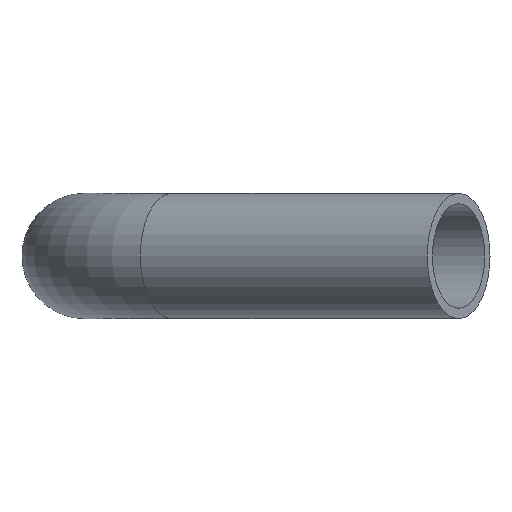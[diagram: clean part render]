
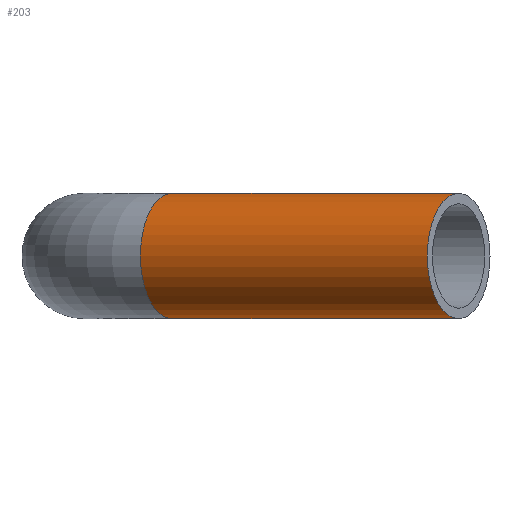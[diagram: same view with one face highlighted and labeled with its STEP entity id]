
A CAD part, left-side view. The second image highlights one B-rep face of the part: STEP entity #203.
In plain terms, the highlighted cylindrical face has radius 9 mm (diameter 18 mm), a full revolution.
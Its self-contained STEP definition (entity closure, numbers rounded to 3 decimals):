
#172=CARTESIAN_POINT('',(-29.445,17.,0.));
#173=VERTEX_POINT('',#172);
#174=CARTESIAN_POINT('',(-21.651,12.5,0.0));
#175=DIRECTION('',(-0.5,-0.866,0.0));
#176=DIRECTION('',(0.866,-0.5,0.0));
#177=AXIS2_PLACEMENT_3D('',#174,#175,#176);
#178=CIRCLE('',#177,9.0);
#179=EDGE_CURVE('',#173,#173,#178,.T.);
#184=CARTESIAN_POINT('',(-45.434,-28.694,0.0));
#185=DIRECTION('',(0.5,0.866,0.0));
#186=DIRECTION('',(0.866,-0.5,0.0));
#187=AXIS2_PLACEMENT_3D('',#184,#185,#186);
#188=CYLINDRICAL_SURFACE('',#187,9.0);
#189=ORIENTED_EDGE('',*,*,#179,.T.);
#190=EDGE_LOOP('',(#189));
#191=FACE_OUTER_BOUND('',#190,.T.);
#192=CARTESIAN_POINT('',(-53.228,-24.194,0.));
#193=VERTEX_POINT('',#192);
#194=CARTESIAN_POINT('',(-45.434,-28.694,0.0));
#195=DIRECTION('',(-0.5,-0.866,0.0));
#196=DIRECTION('',(0.866,-0.5,0.0));
#197=AXIS2_PLACEMENT_3D('',#194,#195,#196);
#198=CIRCLE('',#197,9.0);
#199=EDGE_CURVE('',#193,#193,#198,.T.);
#200=ORIENTED_EDGE('',*,*,#199,.F.);
#201=EDGE_LOOP('',(#200));
#202=FACE_BOUND('',#201,.T.);
#203=ADVANCED_FACE('',(#191,#202),#188,.T.);
